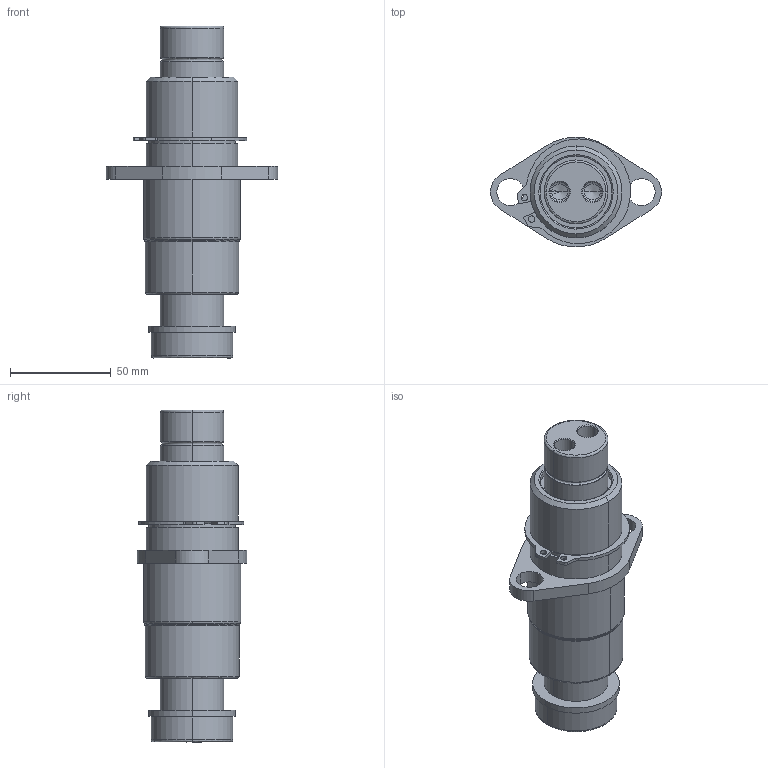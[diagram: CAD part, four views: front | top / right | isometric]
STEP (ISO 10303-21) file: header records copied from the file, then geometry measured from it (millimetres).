
FILE_DESCRIPTION (( 'STEP AP214' ), '1' );
FILE_NAME ('GK122-N4-2-BP-E-XXX.STEP', '2020-09-21T18:47:40', ( '' ), ( '' ), 'SwSTEP 2.0', 'SolidWorks 2017', '' );
FILE_SCHEMA (( 'AUTOMOTIVE_DESIGN' ));
Length unit declared in the file: inch
Products named in the file (7): GK1.25-N4-2-BP-Base; GK122-N4-2-BP-E-XXX; GK122-E-XXX-GuidePin; GK122-DampeningWasher; RetainingRing
Assembly tree (6 placements, depth 3):
  GK122-N4-2-BP-E-XXX
    GK1.25-N4-2-BP-Base
      GK1.25-N4-2-BP-Base
      RetainingRing
    GK122-E-XXX-GuidePin
      GK122-E-XXX-GuidePin
      GK122-DampeningWasher
Bounding box: 85.09 x 54.52 x 165.1 mm (x, y, z)
Volume: 238958.9 mm3; surface area: 57149.3 mm2
Topology: 4 solids, 4 shells, 141 faces, 319 edges, 194 vertices
Faces by surface type: cylinder 65, bspline 30, plane 24, cone 22
Entity records: 5678 total; most frequent: CARTESIAN_POINT 2129, DIRECTION 691, ORIENTED_EDGE 630, EDGE_CURVE 315, AXIS2_PLACEMENT_3D 284, VERTEX_POINT 194, EDGE_LOOP 165, CIRCLE 162
